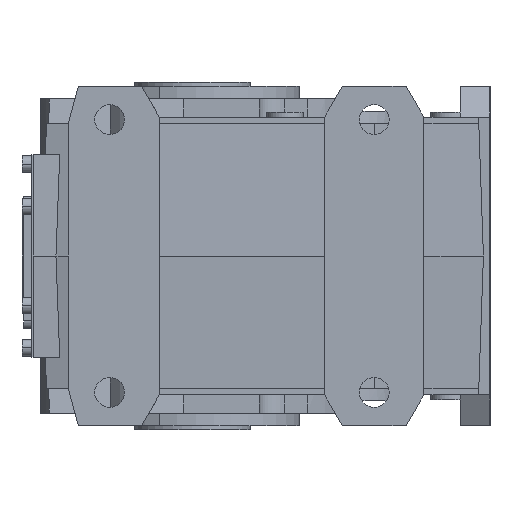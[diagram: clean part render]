
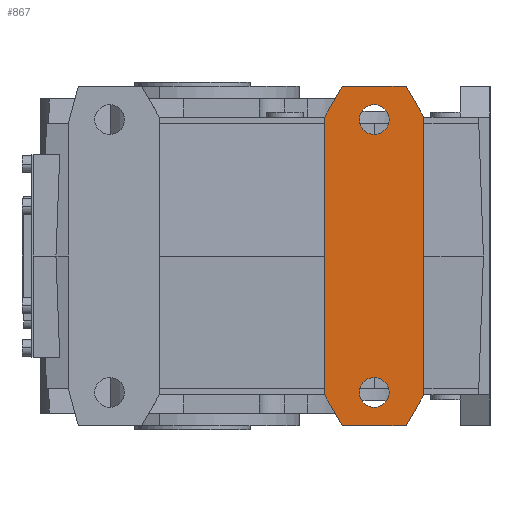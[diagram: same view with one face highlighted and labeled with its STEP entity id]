
A CAD part, left-side view. The second image highlights one B-rep face of the part: STEP entity #867.
In plain terms, the highlighted planar face has unit normal (-1, 0, 0).
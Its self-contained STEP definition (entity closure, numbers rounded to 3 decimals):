
#867 = ADVANCED_FACE( '', ( #3813, #3814, #3815 ), #3816, .T. );
#3813 = FACE_BOUND( '', #9110, .T. );
#3814 = FACE_BOUND( '', #9111, .T. );
#3815 = FACE_OUTER_BOUND( '', #9112, .T. );
#3816 = PLANE( '', #9113 );
#9110 = EDGE_LOOP( '', ( #16452, #16453 ) );
#9111 = EDGE_LOOP( '', ( #16454, #16455 ) );
#9112 = EDGE_LOOP( '', ( #16456, #16457, #16458, #16459, #16460, #16461, #16462, #16463 ) );
#9113 = AXIS2_PLACEMENT_3D( '', #16464, #16465, #16466 );
#16452 = ORIENTED_EDGE( '', *, *, #35410, .T. );
#16453 = ORIENTED_EDGE( '', *, *, #35508, .T. );
#16454 = ORIENTED_EDGE( '', *, *, #35406, .T. );
#16455 = ORIENTED_EDGE( '', *, *, #35510, .T. );
#16456 = ORIENTED_EDGE( '', *, *, #36134, .T. );
#16457 = ORIENTED_EDGE( '', *, *, #36121, .T. );
#16458 = ORIENTED_EDGE( '', *, *, #36126, .T. );
#16459 = ORIENTED_EDGE( '', *, *, #36128, .T. );
#16460 = ORIENTED_EDGE( '', *, *, #36129, .T. );
#16461 = ORIENTED_EDGE( '', *, *, #35918, .T. );
#16462 = ORIENTED_EDGE( '', *, *, #36131, .T. );
#16463 = ORIENTED_EDGE( '', *, *, #36133, .T. );
#16464 = CARTESIAN_POINT( '', ( -112., -25., 0. ) );
#16465 = DIRECTION( '', ( -1., 0., 0. ) );
#16466 = DIRECTION( '', ( 0., 0., 1. ) );
#35406 = EDGE_CURVE( '', #42561, #42565, #42567, .T. );
#35410 = EDGE_CURVE( '', #42569, #42573, #42575, .T. );
#35508 = EDGE_CURVE( '', #42573, #42569, #42738, .T. );
#35510 = EDGE_CURVE( '', #42565, #42561, #42740, .T. );
#35918 = EDGE_CURVE( '', #43401, #43399, #43402, .T. );
#36121 = EDGE_CURVE( '', #43728, #43726, #43729, .T. );
#36126 = EDGE_CURVE( '', #43726, #43734, #43736, .T. );
#36128 = EDGE_CURVE( '', #43734, #43737, #43739, .T. );
#36129 = EDGE_CURVE( '', #43737, #43401, #43740, .T. );
#36131 = EDGE_CURVE( '', #43399, #43741, #43743, .T. );
#36133 = EDGE_CURVE( '', #43741, #43744, #43746, .T. );
#36134 = EDGE_CURVE( '', #43744, #43728, #43747, .T. );
#42561 = VERTEX_POINT( '', #54276 );
#42565 = VERTEX_POINT( '', #54281 );
#42567 = CIRCLE( '', #54284, 9. );
#42569 = VERTEX_POINT( '', #54286 );
#42573 = VERTEX_POINT( '', #54291 );
#42575 = CIRCLE( '', #54294, 9. );
#42738 = CIRCLE( '', #54489, 9. );
#42740 = CIRCLE( '', #54491, 9. );
#43399 = VERTEX_POINT( '', #55604 );
#43401 = VERTEX_POINT( '', #55607 );
#43402 = LINE( '', #55608, #55609 );
#43726 = VERTEX_POINT( '', #56151 );
#43728 = VERTEX_POINT( '', #56154 );
#43729 = LINE( '', #56155, #56156 );
#43734 = VERTEX_POINT( '', #56164 );
#43736 = LINE( '', #56167, #56168 );
#43737 = VERTEX_POINT( '', #56169 );
#43739 = LINE( '', #56172, #56173 );
#43740 = LINE( '', #56174, #56175 );
#43741 = VERTEX_POINT( '', #56176 );
#43743 = LINE( '', #56179, #56180 );
#43744 = VERTEX_POINT( '', #56181 );
#43746 = LINE( '', #56184, #56185 );
#43747 = LINE( '', #56186, #56187 );
#54276 = CARTESIAN_POINT( '', ( -112., -110., 91.5 ) );
#54281 = CARTESIAN_POINT( '', ( -112., -110., 73.5 ) );
#54284 = AXIS2_PLACEMENT_3D( '', #73014, #73015, #73016 );
#54286 = CARTESIAN_POINT( '', ( -112., -110., -73.5 ) );
#54291 = CARTESIAN_POINT( '', ( -112., -110., -91.5 ) );
#54294 = AXIS2_PLACEMENT_3D( '', #73022, #73023, #73024 );
#54489 = AXIS2_PLACEMENT_3D( '', #73252, #73253, #73254 );
#54491 = AXIS2_PLACEMENT_3D( '', #73258, #73259, #73260 );
#55604 = CARTESIAN_POINT( '', ( -112., -80., -84. ) );
#55607 = CARTESIAN_POINT( '', ( -112., -80., 84. ) );
#55608 = CARTESIAN_POINT( '', ( -112., -80., 84. ) );
#55609 = VECTOR( '', #73890, 1. );
#56151 = CARTESIAN_POINT( '', ( -112., -140., 84. ) );
#56154 = CARTESIAN_POINT( '', ( -112., -140., -84. ) );
#56155 = CARTESIAN_POINT( '', ( -112., -140., -84. ) );
#56156 = VECTOR( '', #74149, 1. );
#56164 = CARTESIAN_POINT( '', ( -112., -129.319, 102.5 ) );
#56167 = CARTESIAN_POINT( '', ( -112., -140., 84. ) );
#56168 = VECTOR( '', #74154, 1. );
#56169 = CARTESIAN_POINT( '', ( -112., -90.681, 102.5 ) );
#56172 = CARTESIAN_POINT( '', ( -112., -129.319, 102.5 ) );
#56173 = VECTOR( '', #74156, 1. );
#56174 = CARTESIAN_POINT( '', ( -112., -90.681, 102.5 ) );
#56175 = VECTOR( '', #74157, 1. );
#56176 = CARTESIAN_POINT( '', ( -112., -90.681, -102.5 ) );
#56179 = CARTESIAN_POINT( '', ( -112., -80., -84. ) );
#56180 = VECTOR( '', #74159, 1. );
#56181 = CARTESIAN_POINT( '', ( -112., -129.319, -102.5 ) );
#56184 = CARTESIAN_POINT( '', ( -112., -90.681, -102.5 ) );
#56185 = VECTOR( '', #74161, 1. );
#56186 = CARTESIAN_POINT( '', ( -112., -129.319, -102.5 ) );
#56187 = VECTOR( '', #74162, 1. );
#73014 = CARTESIAN_POINT( '', ( -112., -110., 82.5 ) );
#73015 = DIRECTION( '', ( 1., 0., 0. ) );
#73016 = DIRECTION( '', ( 0., 0., 1. ) );
#73022 = CARTESIAN_POINT( '', ( -112., -110., -82.5 ) );
#73023 = DIRECTION( '', ( 1., 0., 0. ) );
#73024 = DIRECTION( '', ( 0., 0., 1. ) );
#73252 = CARTESIAN_POINT( '', ( -112., -110., -82.5 ) );
#73253 = DIRECTION( '', ( 1., 0., 0. ) );
#73254 = DIRECTION( '', ( 0., 0., 1. ) );
#73258 = CARTESIAN_POINT( '', ( -112., -110., 82.5 ) );
#73259 = DIRECTION( '', ( 1., 0., 0. ) );
#73260 = DIRECTION( '', ( 0., 0., 1. ) );
#73890 = DIRECTION( '', ( 0., 0., -1. ) );
#74149 = DIRECTION( '', ( 0., 0., 1. ) );
#74154 = DIRECTION( '', ( 0., 0.5, 0.866 ) );
#74156 = DIRECTION( '', ( 0., 1., 0. ) );
#74157 = DIRECTION( '', ( 0., 0.5, -0.866 ) );
#74159 = DIRECTION( '', ( 0., -0.5, -0.866 ) );
#74161 = DIRECTION( '', ( 0., -1., 0. ) );
#74162 = DIRECTION( '', ( 0., -0.5, 0.866 ) );
